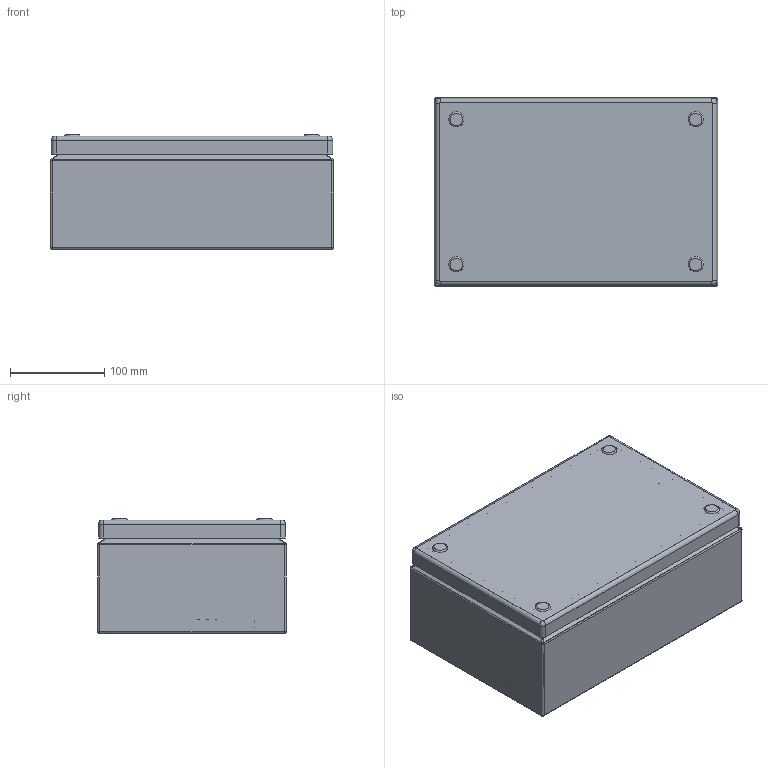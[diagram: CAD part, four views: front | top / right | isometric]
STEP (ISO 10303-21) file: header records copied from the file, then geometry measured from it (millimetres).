
FILE_DESCRIPTION (( 'STEP AP203' ), '1' );
FILE_NAME ('EG030212.A.STEP', '2023-09-01T14:36:37', ( '' ), ( '' ), 'SwSTEP 2.0', 'SolidWorks 2022', '' );
FILE_SCHEMA (( 'CONFIG_CONTROL_DESIGN' ));
Length unit declared in the file: millimetre
Products named in the file (3): EG030212.A; AR_EGRAN.A_pannello_0300x0200; AR_EGRAN.A_involucro_0300x0200x120
Assembly tree (2 placements, depth 2):
  EG030212.A
    AR_EGRAN.A_involucro_0300x0200x120
    AR_EGRAN.A_pannello_0300x0200
Bounding box: 300 x 200 x 121.5 mm (x, y, z)
Volume: 351939.8 mm3; surface area: 529501.7 mm2
Topology: 2 solids, 2 shells, 247 faces, 584 edges, 335 vertices
Faces by surface type: cylinder 117, plane 78, torus 28, sphere 16, bspline 8
Full cylindrical faces by diameter (mm): 4.2 x14, 5.2 x4, 5.5 x1, 6 x1, 8 x1, 10.2 x4, 16 x4
Entity records: 7313 total; most frequent: CARTESIAN_POINT 1581, DIRECTION 1208, ORIENTED_EDGE 1022, EDGE_CURVE 511, AXIS2_PLACEMENT_3D 486, EDGE_LOOP 344, VERTEX_POINT 319, FACE_OUTER_BOUND 288
